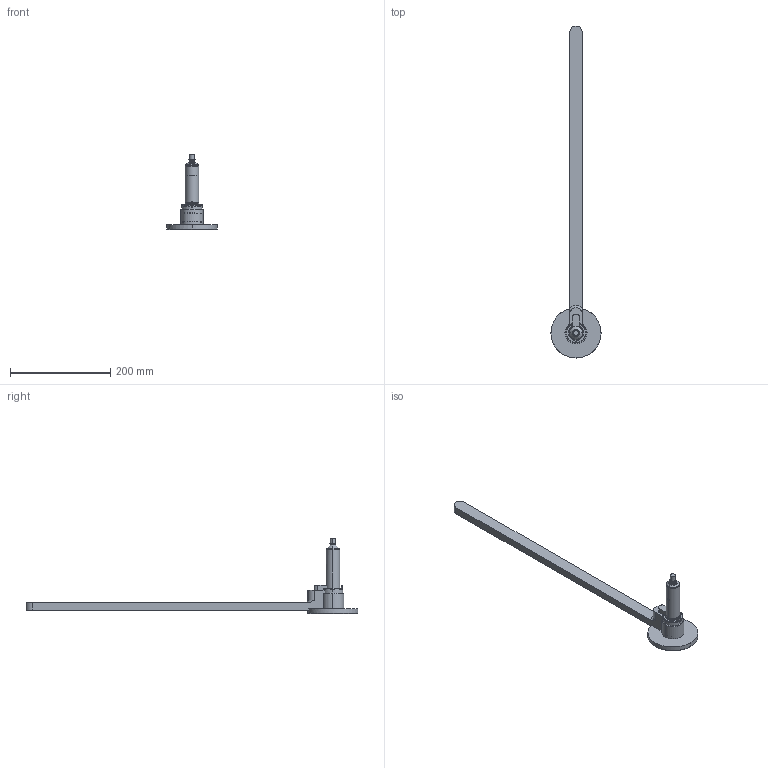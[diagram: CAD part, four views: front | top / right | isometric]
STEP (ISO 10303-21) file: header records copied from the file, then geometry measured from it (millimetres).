
FILE_DESCRIPTION (( 'STEP AP214' ), '1' );
FILE_NAME ('09S-03-090-##K.STEP', '2023-01-04T08:17:43', ( '' ), ( '' ), 'SwSTEP 2.0', 'SolidWorks 2018', '' );
FILE_SCHEMA (( 'AUTOMOTIVE_DESIGN' ));
Length unit declared in the file: millimetre
Products named in the file (3): 09S-03-090-##K; cutout_09S-03-090-##K; nozzle_09S-03-090-##K
Assembly tree (2 placements, depth 2):
  09S-03-090-##K
    nozzle_09S-03-090-##K
    cutout_09S-03-090-##K
Bounding box: 100 x 662.5 x 150 mm (x, y, z)
Volume: 415239.3 mm3; surface area: 115012.3 mm2
Topology: 1 solids, 6 shells, 531 faces, 1413 edges, 884 vertices
Faces by surface type: cylinder 226, plane 142, cone 97, torus 56, bspline 5, sphere 5
Entity records: 21293 total; most frequent: CARTESIAN_POINT 7748, DIRECTION 2924, ORIENTED_EDGE 2802, EDGE_CURVE 1402, AXIS2_PLACEMENT_3D 1188, VERTEX_POINT 884, CIRCLE 656, EDGE_LOOP 559
